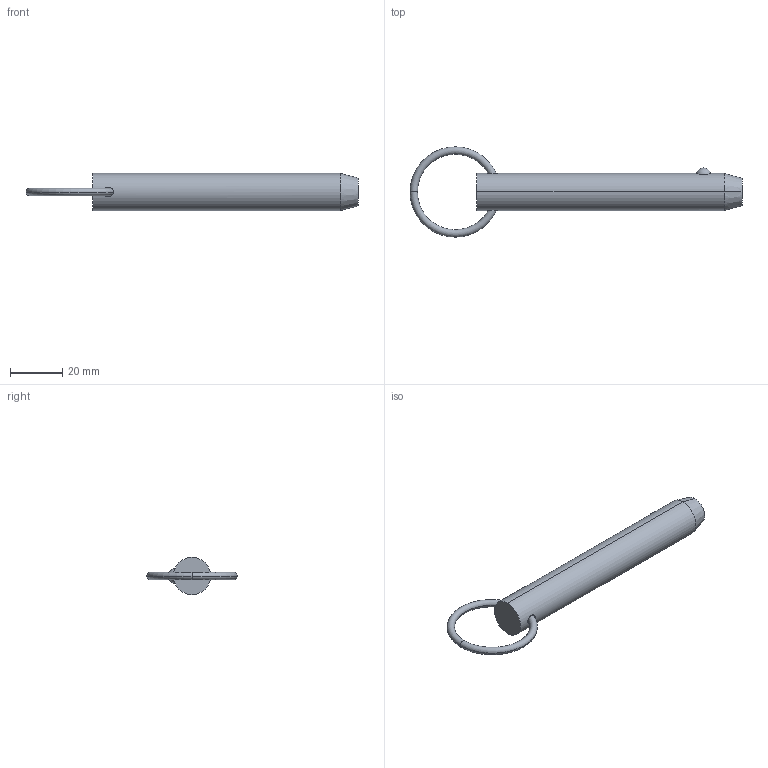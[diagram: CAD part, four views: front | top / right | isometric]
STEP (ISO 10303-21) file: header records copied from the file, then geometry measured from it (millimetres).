
FILE_DESCRIPTION (( 'STEP AP203' ), '1' );
FILE_NAME ('33010.W5630.step', '2024-11-01T10:40:07', ( '' ), ( '' ), 'SwSTEP 2.0', 'SolidWorks 2019', '' );
FILE_SCHEMA (( 'CONFIG_CONTROL_DESIGN' ));
Length unit declared in the file: millimetre
Products named in the file (3): Part2_33010.W5630; Part1_33010.W5630; 33010.W5630
Assembly tree (2 placements, depth 2):
  33010.W5630
    Part1_33010.W5630
    Part2_33010.W5630
Bounding box: 127.1 x 34.59 x 14.22 mm (x, y, z)
Volume: 16409.9 mm3; surface area: 5805.9 mm2
Topology: 2 solids, 2 shells, 16 faces, 31 edges, 18 vertices
Faces by surface type: torus 8, sphere 2, cone 2, cylinder 2, plane 2
Entity records: 875 total; most frequent: CARTESIAN_POINT 232, DIRECTION 88, ORIENTED_EDGE 62, AXIS2_PLACEMENT_3D 42, EDGE_CURVE 31, PERSON_AND_ORGANIZATION 26, CIRCLE 21, DATE_AND_TIME 19
